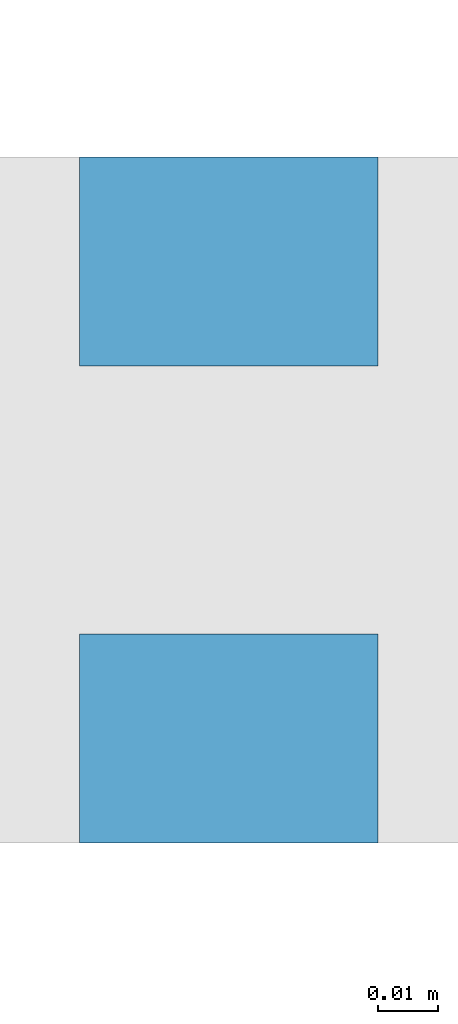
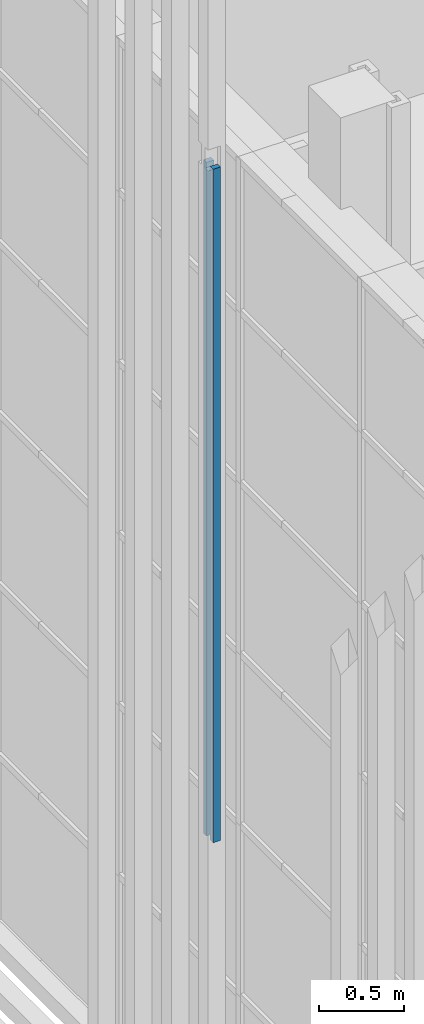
# One storey, part 131 of 260: 2 discrete accessories.
"""IFC2X3 building model written with IfcOpenShell, lengths in millimetres."""

from ifc_helpers import new_model, entity, si_unit, converted_unit, derived_unit, money_unit, direction, frame, origin_with_axes, place, context, subcontext, project, spatial, faceted_brep, material, type_object, element, save


model = new_model("IFC2X3")

# Units and contexts
model_context = context("Model", 3, precision=0.01, world=origin_with_axes(), true_north=direction((0.0, 1.0)))
body_context = subcontext(model_context, "Body", "Model", "MODEL_VIEW")
ifc_project = project(units=[si_unit("LENGTHUNIT", "METRE", prefix="MILLI"), si_unit("AREAUNIT", "SQUARE_METRE"), si_unit("VOLUMEUNIT", "CUBIC_METRE"), converted_unit("PLANEANGLEUNIT", "DEGREE", entity("IfcPlaneAngleMeasure", 0.0174532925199), si_unit("PLANEANGLEUNIT", "RADIAN"), dimensions=[0, 0, 0, 0, 0, 0, 0]), money_unit("EUR"), converted_unit("TIMEUNIT", "Year", entity("IfcTimeMeasure", 31556926.0), si_unit("TIMEUNIT", "SECOND"), dimensions=[0, 0, 1, 0, 0, 0, 0]), si_unit("MASSUNIT", "GRAM", prefix="KILO"), si_unit("THERMODYNAMICTEMPERATUREUNIT", "DEGREE_CELSIUS"), si_unit("LUMINOUSINTENSITYUNIT", "LUMEN"), si_unit("ENERGYUNIT", "JOULE", prefix="MEGA"), derived_unit("THERMALCONDUCTANCEUNIT", [(si_unit("POWERUNIT", "WATT"), 1), (si_unit("LENGTHUNIT", "METRE"), -1), (si_unit("THERMODYNAMICTEMPERATUREUNIT", "KELVIN"), -1)]), derived_unit("SPECIFICHEATCAPACITYUNIT", [(si_unit("ENERGYUNIT", "JOULE"), 1), (si_unit("MASSUNIT", "GRAM", prefix="KILO"), -1), (si_unit("THERMODYNAMICTEMPERATUREUNIT", "KELVIN"), -1)]), derived_unit("MASSDENSITYUNIT", [(si_unit("MASSUNIT", "GRAM", prefix="KILO"), 1), (si_unit("VOLUMEUNIT", "CUBIC_METRE"), -1)])], contexts=[model_context])

# Site, building, storey
site_placement = place(None, origin_with_axes())
site = spatial("IfcSite", under=ifc_project, at=site_placement, Name="Kolde pst 67a", CompositionType="ELEMENT")
building_placement = place(site_placement, origin_with_axes())
building = spatial("IfcBuilding", under=site, at=building_placement, Name="Riigigümnaasium", CompositionType="ELEMENT")
storey_placement = place(building_placement, origin_with_axes())
storey = spatial("IfcBuildingStorey", under=building, at=storey_placement, Name="1. korrus", CompositionType="ELEMENT", Elevation=0.0)

# Discrete accessories
ifc_material = material(Name="_METALL - teras")
discrete_accessory_type = type_object("IfcDiscreteAccessoryType", Name="_METALL - teras 50 x 35")
discrete_accessory_1_placement = place(storey_placement, frame((23615.0027486, 29410.5003013, 2426.5), z_axis=(0.0, 0.0, 1.0), x_axis=(-1.0, 0.0, 0.0)))
element("IfcDiscreteAccessory", 1, at=discrete_accessory_1_placement, inside=storey, type_object=discrete_accessory_type, material=ifc_material, Name="Varjestuskardina külgsiin RENSON või analoog", context=body_context, shape_type="Brep", body=[
    faceted_brep([(-25.0, -17.5, 4843.5), (-25.0, -17.5, 0.0), (25.0, -17.5, 0.0), (25.0, -17.5, 4843.5), (-25.0, 17.5, 4843.5), (-25.0, 17.5, 0.0), (25.0, 17.5, 0.0), (25.0, 17.5, 4843.5)], [[[0, 1, 2, 3]], [[4, 5, 1, 0]], [[2, 1, 5, 6]], [[3, 2, 6, 7]], [[4, 0, 3, 7]], [[7, 6, 5, 4]]]),
])
discrete_accessory_2_placement = place(storey_placement, frame((23615.0031097, 29330.5005525, 2426.5), z_axis=(0.0, 0.0, 1.0), x_axis=(1.0, 0.0, 0.0)))
element("IfcDiscreteAccessory", 2, at=discrete_accessory_2_placement, inside=storey, type_object=discrete_accessory_type, material=ifc_material, Name="Varjestuskardina külgsiin RENSON või analoog", context=body_context, shape_type="Brep", body=[
    faceted_brep([(25.0, 17.5, 4843.5), (25.0, 17.5, 0.0), (-25.0, 17.5, 0.0), (-25.0, 17.5, 4843.5), (25.0, -17.5, 4843.5), (25.0, -17.5, 0.0), (-25.0, -17.5, 0.0), (-25.0, -17.5, 4843.5)], [[[0, 1, 2, 3]], [[4, 5, 1, 0]], [[2, 1, 5, 6]], [[3, 2, 6, 7]], [[4, 0, 3, 7]], [[7, 6, 5, 4]]]),
])

save(model, "model.ifc")
